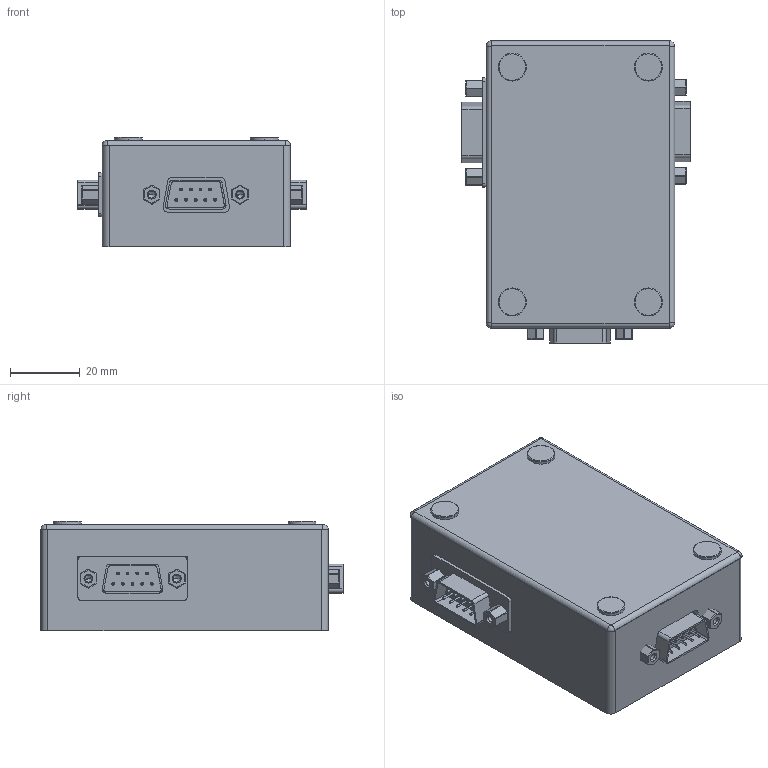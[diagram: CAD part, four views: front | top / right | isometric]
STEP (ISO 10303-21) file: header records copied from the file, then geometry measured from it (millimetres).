
FILE_DESCRIPTION (( 'STEP AP214' ), '1' );
FILE_NAME ('ﾋﾈﾐ-915.STEP', '2017-05-23T08:23:28', ( '' ), ( '' ), 'SwSTEP 2.0', 'SolidWorks 2013', '' );
FILE_SCHEMA (( 'AUTOMOTIVE_DESIGN' ));
Length unit declared in the file: millimetre
Products named in the file (1): ﾋﾈﾐ-915
Bounding box: 65.5 x 86.55 x 31.5 mm (x, y, z)
Volume: 38401.5 mm3; surface area: 50147.9 mm2
Topology: 57 solids, 57 shells, 1570 faces, 3854 edges, 2432 vertices
Faces by surface type: cylinder 735, plane 377, cone 332, torus 78, sphere 36, bspline 12
Entity records: 70592 total; most frequent: CARTESIAN_POINT 15151, DIRECTION 8390, ORIENTED_EDGE 7632, EDGE_CURVE 3816, AXIS2_PLACEMENT_3D 3377, VERTEX_POINT 2426, CIRCLE 1818, EDGE_LOOP 1748
